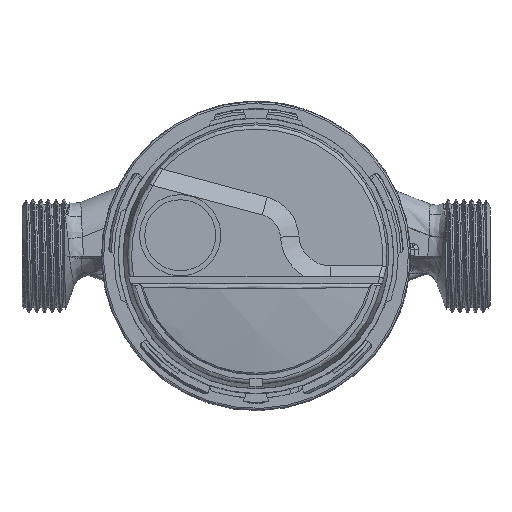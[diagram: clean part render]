
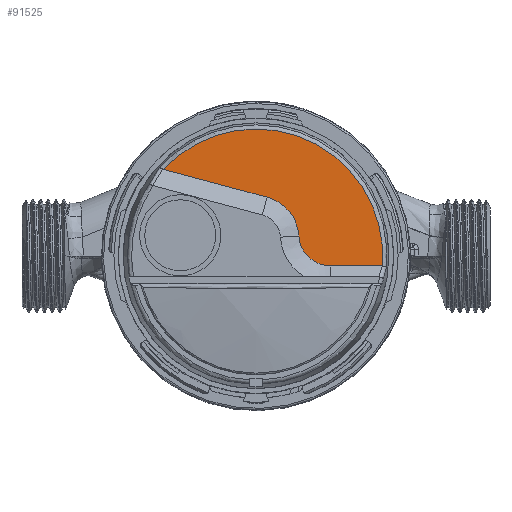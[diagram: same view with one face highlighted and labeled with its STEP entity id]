
A CAD part, top view. The second image highlights one B-rep face of the part: STEP entity #91525.
In plain terms, the highlighted planar face has unit normal (0, 0, 1) as drawn and (0, 1, 0) by its records, which use the part's own axes.
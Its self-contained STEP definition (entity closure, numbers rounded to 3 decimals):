
#1924 = CARTESIAN_POINT ( 'NONE',  ( 29.65, 25., 2.402 ) ) ;
#2574 = CARTESIAN_POINT ( 'NONE',  ( 29.674, 25., 2.405 ) ) ;
#3489 = AXIS2_PLACEMENT_3D ( 'NONE', #111002, #109697, #58025 ) ;
#8364 = ORIENTED_EDGE ( 'NONE', *, *, #106021, .T. ) ;
#9116 = PLANE ( 'NONE',  #3489 ) ;
#9580 = DIRECTION ( 'NONE',  ( 0., 0., 1. ) ) ;
#10007 = DIRECTION ( 'NONE',  ( 1., 0., 0. ) ) ;
#12946 = CARTESIAN_POINT ( 'NONE',  ( 10.08, 25., -4.631 ) ) ;
#13844 = DIRECTION ( 'NONE',  ( 0., 0., 1. ) ) ;
#16955 = AXIS2_PLACEMENT_3D ( 'NONE', #127392, #48615, #78376 ) ;
#20044 = CIRCLE ( 'NONE', #43266, 29.772 ) ;
#20961 = CARTESIAN_POINT ( 'NONE',  ( 29.601, 25., 2.4 ) ) ;
#25683 = EDGE_CURVE ( 'NONE', #88402, #123169, #70847, .T. ) ;
#29393 = CARTESIAN_POINT ( 'NONE',  ( 0., 25., 0. ) ) ;
#35896 = CIRCLE ( 'NONE', #16955, 10.1 ) ;
#39756 = CARTESIAN_POINT ( 'NONE',  ( 17.566, 25., 2.4 ) ) ;
#42450 = ORIENTED_EDGE ( 'NONE', *, *, #121414, .T. ) ;
#42876 = VERTEX_POINT ( 'NONE', #110293 ) ;
#43266 = AXIS2_PLACEMENT_3D ( 'NONE', #29393, #69122, #9580 ) ;
#44713 = CARTESIAN_POINT ( 'NONE',  ( -21.784, 25., -20.293 ) ) ;
#47525 = CARTESIAN_POINT ( 'NONE',  ( -40., 25., -25.174 ) ) ;
#47729 = AXIS2_PLACEMENT_3D ( 'NONE', #64163, #104488, #13844 ) ;
#48615 = DIRECTION ( 'NONE',  ( 0., -1., 0. ) ) ;
#50719 = FACE_OUTER_BOUND ( 'NONE', #118864, .T. ) ;
#58025 = DIRECTION ( 'NONE',  ( 0., 0., 1. ) ) ;
#59385 = ORIENTED_EDGE ( 'NONE', *, *, #127530, .T. ) ;
#64111 = CARTESIAN_POINT ( 'NONE',  ( 29.626, 25., 2.4 ) ) ;
#64163 = CARTESIAN_POINT ( 'NONE',  ( 17.566, 25., -5.1 ) ) ;
#65029 = VECTOR ( 'NONE', #85936, 1000. ) ;
#69122 = DIRECTION ( 'NONE',  ( 0., 1., 0. ) ) ;
#70847 = LINE ( 'NONE', #39756, #125561 ) ;
#78376 = DIRECTION ( 'NONE',  ( 0., 0., 1. ) ) ;
#78752 = VERTEX_POINT ( 'NONE', #44713 ) ;
#81495 = ORIENTED_EDGE ( 'NONE', *, *, #25683, .T. ) ;
#82957 = ORIENTED_EDGE ( 'NONE', *, *, #125117, .T. ) ;
#85936 = DIRECTION ( 'NONE',  ( 0.966, 0., 0.259 ) ) ;
#86138 = EDGE_CURVE ( 'NONE', #123169, #115730, #106533, .T. ) ;
#86521 = CARTESIAN_POINT ( 'NONE',  ( 29.674, 25., 2.405 ) ) ;
#88402 = VERTEX_POINT ( 'NONE', #111502 ) ;
#91525 = ADVANCED_FACE ( 'NONE', ( #50719 ), #9116, .T. ) ;
#92559 = CARTESIAN_POINT ( 'NONE',  ( 29.601, 25., 2.4 ) ) ;
#102616 = CIRCLE ( 'NONE', #47729, 7.5 ) ;
#104488 = DIRECTION ( 'NONE',  ( 0., 1., 0. ) ) ;
#106021 = EDGE_CURVE ( 'NONE', #115730, #78752, #20044, .T. ) ;
#106533 = B_SPLINE_CURVE_WITH_KNOTS ( 'NONE', 3,
 ( #92559, #64111, #1924, #2574 ),
 .UNSPECIFIED., .F., .F.,
 ( 4, 4 ),
 ( 0., 0. ),
 .UNSPECIFIED. ) ;
#109697 = DIRECTION ( 'NONE',  ( 0., 1., 0. ) ) ;
#110293 = CARTESIAN_POINT ( 'NONE',  ( 2.614, 25., -13.756 ) ) ;
#111002 = CARTESIAN_POINT ( 'NONE',  ( 17.566, 25., -5.1 ) ) ;
#111502 = CARTESIAN_POINT ( 'NONE',  ( 17.566, 25., 2.4 ) ) ;
#115393 = ORIENTED_EDGE ( 'NONE', *, *, #86138, .T. ) ;
#115730 = VERTEX_POINT ( 'NONE', #86521 ) ;
#117615 = VERTEX_POINT ( 'NONE', #12946 ) ;
#118864 = EDGE_LOOP ( 'NONE', ( #81495, #115393, #8364, #82957, #59385, #42450 ) ) ;
#121414 = EDGE_CURVE ( 'NONE', #117615, #88402, #102616, .T. ) ;
#123169 = VERTEX_POINT ( 'NONE', #20961 ) ;
#125117 = EDGE_CURVE ( 'NONE', #78752, #42876, #127631, .T. ) ;
#125561 = VECTOR ( 'NONE', #10007, 1000. ) ;
#127392 = CARTESIAN_POINT ( 'NONE',  ( 0., 25., -4. ) ) ;
#127530 = EDGE_CURVE ( 'NONE', #42876, #117615, #35896, .T. ) ;
#127631 = LINE ( 'NONE', #47525, #65029 ) ;
